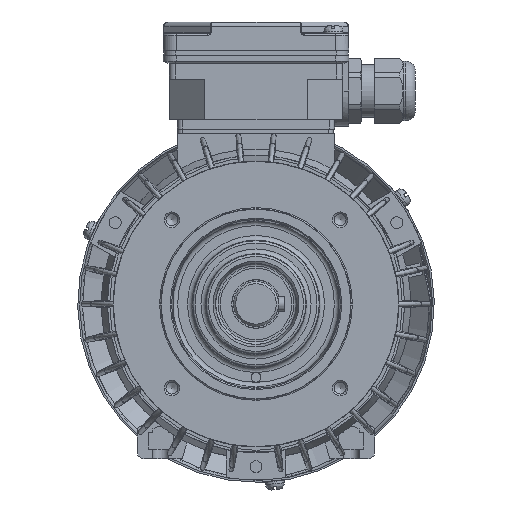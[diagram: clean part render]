
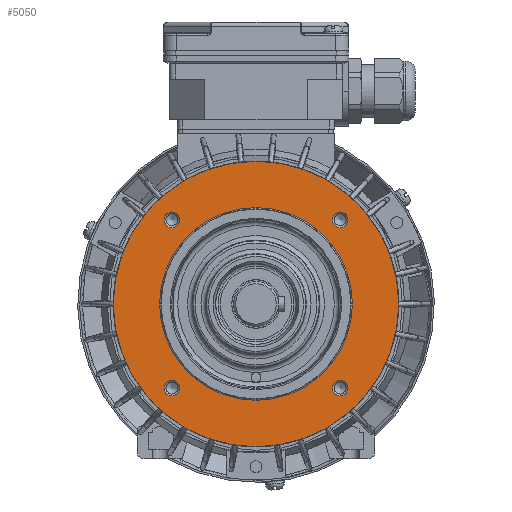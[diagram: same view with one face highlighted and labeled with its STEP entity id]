
A CAD part, left-side view. The second image highlights one B-rep face of the part: STEP entity #5050.
In plain terms, the highlighted planar face has unit normal (-1, 0, 0) as drawn and (0, -1, 0) by its records, which use the part's own axes.
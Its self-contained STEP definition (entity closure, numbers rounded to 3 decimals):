
#5050 = ADVANCED_FACE( '', ( #11290, #11291, #11292, #11293, #11294, #11295 ), #11296, .T. );
#11290 = FACE_BOUND( '', #27066, .T. );
#11291 = FACE_BOUND( '', #27067, .T. );
#11292 = FACE_BOUND( '', #27068, .T. );
#11293 = FACE_BOUND( '', #27069, .T. );
#11294 = FACE_BOUND( '', #27070, .T. );
#11295 = FACE_OUTER_BOUND( '', #27071, .T. );
#11296 = PLANE( '', #27072 );
#27066 = EDGE_LOOP( '', ( #50116 ) );
#27067 = EDGE_LOOP( '', ( #50117 ) );
#27068 = EDGE_LOOP( '', ( #50118 ) );
#27069 = EDGE_LOOP( '', ( #50119 ) );
#27070 = EDGE_LOOP( '', ( #50120 ) );
#27071 = EDGE_LOOP( '', ( #50121 ) );
#27072 = AXIS2_PLACEMENT_3D( '', #50122, #50123, #50124 );
#50116 = ORIENTED_EDGE( '', *, *, #67527, .T. );
#50117 = ORIENTED_EDGE( '', *, *, #67948, .T. );
#50118 = ORIENTED_EDGE( '', *, *, #67907, .T. );
#50119 = ORIENTED_EDGE( '', *, *, #68158, .T. );
#50120 = ORIENTED_EDGE( '', *, *, #68159, .T. );
#50121 = ORIENTED_EDGE( '', *, *, #66870, .T. );
#50122 = CARTESIAN_POINT( '', ( 0., 3., 40. ) );
#50123 = DIRECTION( '', ( 0., -1., 0. ) );
#50124 = DIRECTION( '', ( 0., 0., -1. ) );
#66870 = EDGE_CURVE( '', #78515, #78515, #78516, .T. );
#67527 = EDGE_CURVE( '', #79504, #79504, #79505, .F. );
#67907 = EDGE_CURVE( '', #80066, #80066, #80067, .F. );
#67948 = EDGE_CURVE( '', #80127, #80127, #80128, .F. );
#68158 = EDGE_CURVE( '', #80421, #80421, #80422, .F. );
#68159 = EDGE_CURVE( '', #80423, #80423, #80424, .F. );
#78515 = VERTEX_POINT( '', #100155 );
#78516 = CIRCLE( '', #100156, 60. );
#79504 = VERTEX_POINT( '', #103001 );
#79505 = CIRCLE( '', #103002, 3.3 );
#80066 = VERTEX_POINT( '', #104663 );
#80067 = CIRCLE( '', #104664, 3.3 );
#80127 = VERTEX_POINT( '', #104758 );
#80128 = CIRCLE( '', #104759, 3.3 );
#80421 = VERTEX_POINT( '', #105484 );
#80422 = CIRCLE( '', #105485, 3.3 );
#80423 = VERTEX_POINT( '', #105486 );
#80424 = CIRCLE( '', #105487, 40.5 );
#100155 = CARTESIAN_POINT( '', ( 0., 3., -60. ) );
#100156 = AXIS2_PLACEMENT_3D( '', #121828, #121829, #121830 );
#103001 = CARTESIAN_POINT( '', ( -35.355, 3., -38.655 ) );
#103002 = AXIS2_PLACEMENT_3D( '', #122425, #122426, #122427 );
#104663 = CARTESIAN_POINT( '', ( 35.355, 3., 32.055 ) );
#104664 = AXIS2_PLACEMENT_3D( '', #122835, #122836, #122837 );
#104758 = CARTESIAN_POINT( '', ( 35.355, 3., -38.655 ) );
#104759 = AXIS2_PLACEMENT_3D( '', #122886, #122887, #122888 );
#105484 = CARTESIAN_POINT( '', ( -35.355, 3., 32.055 ) );
#105485 = AXIS2_PLACEMENT_3D( '', #123093, #123094, #123095 );
#105486 = CARTESIAN_POINT( '', ( 0., 3., -40.5 ) );
#105487 = AXIS2_PLACEMENT_3D( '', #123096, #123097, #123098 );
#121828 = CARTESIAN_POINT( '', ( 0., 3., 0. ) );
#121829 = DIRECTION( '', ( 0., -1., 0. ) );
#121830 = DIRECTION( '', ( 0., 0., -1. ) );
#122425 = CARTESIAN_POINT( '', ( -35.355, 3., -35.355 ) );
#122426 = DIRECTION( '', ( 0., -1., 0. ) );
#122427 = DIRECTION( '', ( 0., 0., -1. ) );
#122835 = CARTESIAN_POINT( '', ( 35.355, 3., 35.355 ) );
#122836 = DIRECTION( '', ( 0., -1., 0. ) );
#122837 = DIRECTION( '', ( 0., 0., -1. ) );
#122886 = CARTESIAN_POINT( '', ( 35.355, 3., -35.355 ) );
#122887 = DIRECTION( '', ( 0., -1., 0. ) );
#122888 = DIRECTION( '', ( 0., 0., -1. ) );
#123093 = CARTESIAN_POINT( '', ( -35.355, 3., 35.355 ) );
#123094 = DIRECTION( '', ( 0., -1., 0. ) );
#123095 = DIRECTION( '', ( 0., 0., -1. ) );
#123096 = CARTESIAN_POINT( '', ( 0., 3., 0. ) );
#123097 = DIRECTION( '', ( 0., -1., 0. ) );
#123098 = DIRECTION( '', ( 0., 0., -1. ) );
